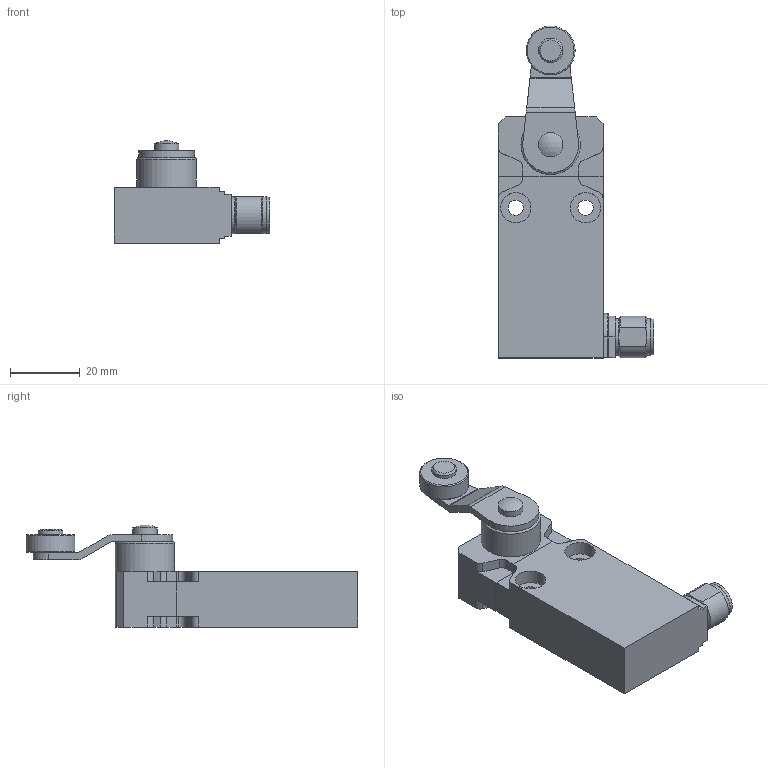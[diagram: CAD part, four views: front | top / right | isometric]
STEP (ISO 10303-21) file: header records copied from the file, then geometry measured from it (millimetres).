
FILE_DESCRIPTION(/* description */ (''),/* implementation_level */ '2;1');
FILE_NAME(/* name */ 'C:\Users\servizio.tecnico\Desktop\CADENAS\3D\EP1_STP\STP_EP1_G43M.stp',/* time_stamp */ '2017-09-04T11:43:50+02:00',/* author */ ('servizio.tecnico'),/* organization */ (''),/* preprocessor_version */ 'ST-DEVELOPER v16.1',/* originating_system */ 'Autodesk Inventor 2016',/* authorisation */ '');
FILE_SCHEMA (('AUTOMOTIVE_DESIGN { 1 0 10303 214 3 1 1 }'));
Length unit declared in the file: millimetre
Products named in the file (3): Product; EP1G43-M; BASE ASSI 
Assembly tree (2 placements, depth 3):
  BASE ASSI 
    EP1G43-M
      Product
Bounding box: 44.5 x 95 x 29.28 mm (x, y, z)
Volume: 35998.9 mm3; surface area: 11843.1 mm2
Topology: 4 solids, 4 shells, 129 faces, 323 edges, 213 vertices
Faces by surface type: plane 72, cylinder 47, cone 5, torus 4, sphere 1
Full cylindrical faces by diameter (mm): 4.4 x2, 5 x2, 7 x2, 8.7 x4, 10.3 x1, 10.6 x2, 14 x1, 17 x1
Entity records: 3851 total; most frequent: DIRECTION 660, CARTESIAN_POINT 655, ORIENTED_EDGE 596, EDGE_CURVE 298, AXIS2_PLACEMENT_3D 236, VERTEX_POINT 207, LINE 188, VECTOR 188
